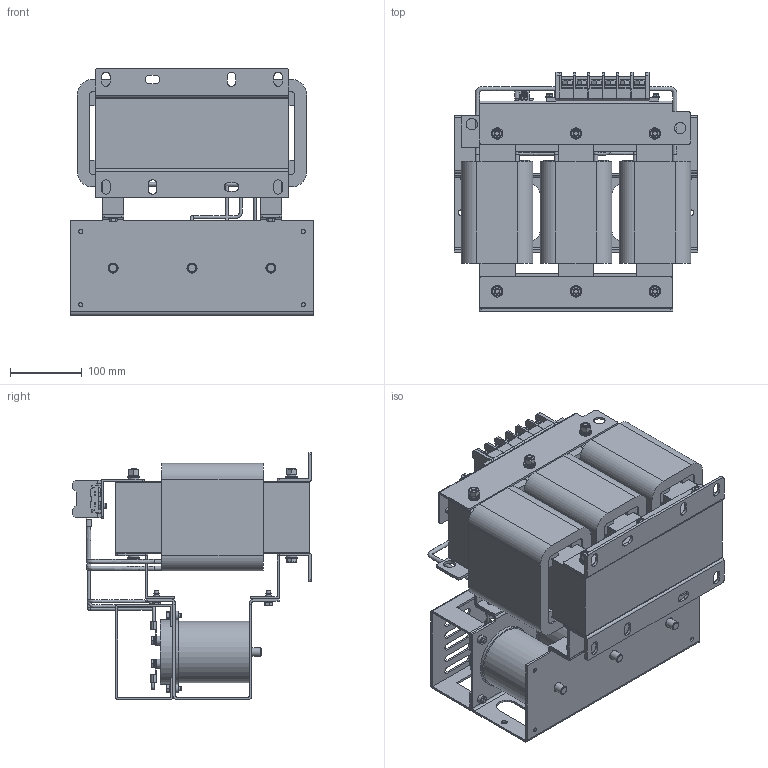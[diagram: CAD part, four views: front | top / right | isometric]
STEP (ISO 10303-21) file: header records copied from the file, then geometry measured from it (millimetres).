
FILE_DESCRIPTION(('STEP AP203'), '1');
FILE_NAME('蔓躅漤铋 耔眢耥 翳朦蝠 _ ISINOF-45_62-6 ', '', ('UNSPECIFIED'), ('UNSPECIFIED'), 'C3D Converter', 'C3D Toolkit', '');
FILE_SCHEMA(('CONFIG_CONTROL_DESIGN'));
Length unit declared in the file: millimetre
Products named in the file (45): ISINOF-45/62-6; LРНіЕМх8x8x140; 吒X2\0425\X0\86-125; 琵X2\0428\X0\崤X2\043A\X0\; 琵X2\04370418042D0458042C\X0\ ; ёЗЧУ; ї琵X2\041E\X0\做зЧУKV223-2P; А降еМх50-270-1; ИэПаМъРѕ270-270-98ЈЁ50-110; ЙПјРјю50-110; ЙПјРјю50-110\X2\040Ô0448\X0\¶ЛЧУЦ§іЕ; ПВјРјю50-110; ПЯИ¦62A; LРНЦ吭X2\04560415\X0\; LРНЦ吭X2\04560415\X0\1; plain washers--product grade c gb_GB_FASTENER_WASHER_SMWC 8; spring lock washers--normal type gb_GB_FASTENER_WASHER_SW 8; hexagon nuts grade c gb_GB_FASTENER_NUT_SNC1 M8-N; БщЅЗВЭЛЁM8; DW22-06-03; RNB22-6S; plain washers--product grade c gb_GB_FASTENER_WASHER_SMWC 6; hex head bolts-full thread grade c gb_GB_FASTENER_BOLT_HHBFTC M6X12-N; Cable_2-gb_assembly-028; 琵X2\043704100412\X0\^Cable_2-gb_assembly-028; Cable_4-gb_assembly-016; 琵X2\043704100412\X0\^Cable_4-gb_assembly-016; Cable_5-gb_assembly-007; 琵X2\043704100412\X0\^Cable_5-gb_assembly-007; Cable_6-gb_assembly-006; 琵X2\043704100412\X0\^Cable_6-gb_assembly-006; Cable_7-gb_assembly-004; 琵X2\043704100412\X0\^Cable_7-gb_assembly-004; Cable_8-gb_assembly-004; 琵X2\043704100412\X0\^Cable_8-gb_assembly-004; Cable_9-ХэПТІЁВЛІЁЖчSKS-SF-0062-6AЈЇ05; 琵X2\043704100412\X0\^Cable_9-ХэПТІЁВЛІЁЖчSKS-SF-0062-6AЈЇ05; Cable_10-ХэПТІЁВЛІЁЖчSKS-SF-0062-6AЈЇ05; 琵X2\043704100412\X0\^Cable_10-ХэПТІЁВЛІЁЖчSKS-SF-0062-6AЈЇ05; Cable_11-ХэПТІЁВЛІЁЖчSKS-SF-0062-6AЈЇ05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
Assembly tree (135 placements, depth 3):
  ISINOF-45/62-6
    LРНіЕМх8x8x140  x12
    吒X2\0425\X0\86-125  x3
    琵X2\0428\X0\崤X2\043A\X0\
    琵X2\04370418042D0458042C\X0\ 
    ёЗЧУ
    ї琵X2\041E\X0\做зЧУKV223-2P
    А降еМх50-270-1  x6
    ИэПаМъРѕ270-270-98ЈЁ50-110
    ЙПјРјю50-110
    ЙПјРјю50-110\X2\040Ô0448\X0\¶ЛЧУЦ§іЕ
    ПВјРјю50-110  x2
    ПЯИ¦62A  x3
    LРНЦ吭X2\04560415\X0\  x2
    LРНЦ吭X2\04560415\X0\1  x2
    plain washers--product grade c gb_GB_FASTENER_WASHER_SMWC 8  x24
    spring lock washers--normal type gb_GB_FASTENER_WASHER_SW 8  x6
    hexagon nuts grade c gb_GB_FASTENER_NUT_SNC1 M8-N  x6
    БщЅЗВЭЛЁM8  x6
    DW22-06-03
    RNB22-6S  x6
    plain washers--product grade c gb_GB_FASTENER_WASHER_SMWC 6  x14
    hex head bolts-full thread grade c gb_GB_FASTENER_BOLT_HHBFTC M6X12-N  x6
    Cable_2-gb_assembly-028
      琵X2\043704100412\X0\^Cable_2-gb_assembly-028
    Cable_4-gb_assembly-016
      琵X2\043704100412\X0\^Cable_4-gb_assembly-016
    Cable_5-gb_assembly-007
      琵X2\043704100412\X0\^Cable_5-gb_assembly-007
    Cable_6-gb_assembly-006
      琵X2\043704100412\X0\^Cable_6-gb_assembly-006
    Cable_7-gb_assembly-004
      琵X2\043704100412\X0\^Cable_7-gb_assembly-004
    Cable_8-gb_assembly-004
      琵X2\043704100412\X0\^Cable_8-gb_assembly-004
    Cable_9-ХэПТІЁВЛІЁЖчSKS-SF-0062-6AЈЇ05
      琵X2\043704100412\X0\^Cable_9-ХэПТІЁВЛІЁЖчSKS-SF-0062-6AЈЇ05
    Cable_10-ХэПТІЁВЛІЁЖчSKS-SF-0062-6AЈЇ05
      琵X2\043704100412\X0\^Cable_10-ХэПТІЁВЛІЁЖчSKS-SF-0062-6AЈЇ05
    Cable_11-ХэПТІЁВЛІЁЖчSKS-SF-0062-6AЈЇ05
      琵X2\043704100412\X0\^Cable_11-ХэПТІЁВЛІЁЖчSKS-SF-0062-6AЈЇ05
    Cable_12-ХэПТІЁВЛІЁЖчSKS-SF-0062-6AЈЇ05
      琵X2\043704100412\X0\^Cable_12-ХэПТІЁВЛІЁЖчSKS-SF-0062-6AЈЇ05
    hex head bolts-full thread grade c gb_GB_FASTENER_BOLT_HHBFTC M6X16-N  x8
    МщЦЅ
Bounding box: 340 x 333 x 344 mm (x, y, z)
Volume: 11841532.6 mm3; surface area: 1937126.3 mm2
Topology: 204 solids, 204 shells, 2710 faces, 6386 edges, 4198 vertices
Faces by surface type: plane 1820, cylinder 615, cone 207, bspline 59, torus 9
Full cylindrical faces by diameter (mm): 3.8 x2, 4 x14, 6 x47, 6.4 x6, 6.6 x14, 6.647 x6, 8 x13, 8.3 x6, 8.68 x6, 9 x24, 10 x2, 11 x30, 12 x21, 12.5 x6, 12.88 x6, 14 x3, 16 x38, 18.2 x1, 19 x1, 20 x1, 86 x6, 90 x6
Entity records: 83528 total; most frequent: CARTESIAN_POINT 23185, DIRECTION 8413, ORIENTED_EDGE 8366, EDGE_CURVE 4183, LINE 3089, VECTOR 3089, VERTEX_POINT 2881, AXIS2_PLACEMENT_3D 2662
